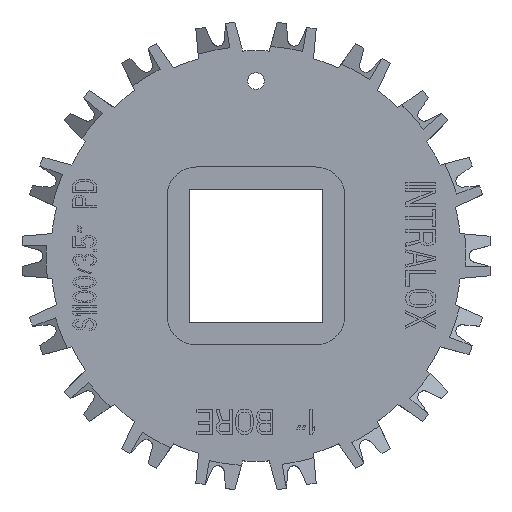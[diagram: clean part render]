
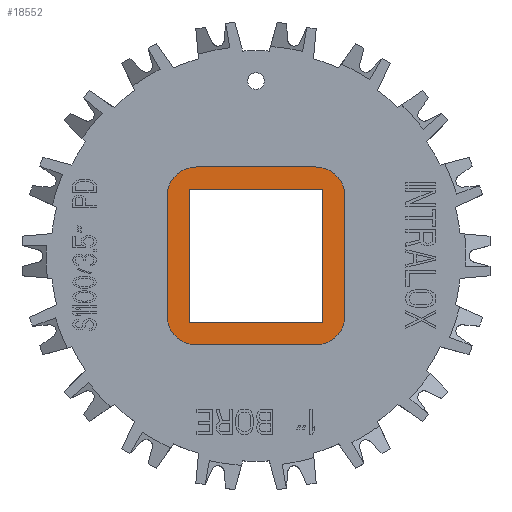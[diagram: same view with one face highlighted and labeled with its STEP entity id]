
A CAD part, top view. The second image highlights one B-rep face of the part: STEP entity #18552.
In plain terms, the highlighted planar face has unit normal (0, 0, 1).
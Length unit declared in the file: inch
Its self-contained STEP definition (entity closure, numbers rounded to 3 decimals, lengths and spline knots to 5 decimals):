
#5543=CARTESIAN_POINT('',(0.4475,0.4475,0.367));
#5544=DIRECTION('',(0.,0.,1.));
#5545=DIRECTION('',(1.,0.,0.));
#5546=AXIS2_PLACEMENT_3D('',#5543,#5544,#5545);
#5548=DIRECTION('',(0.,-1.,0.));
#5549=VECTOR('',#5548,0.895);
#5550=CARTESIAN_POINT('',(0.6675,0.4475,0.367));
#5551=LINE('',#5550,#5549);
#5552=CARTESIAN_POINT('',(0.4475,-0.4475,0.367));
#5553=DIRECTION('',(0.,0.,1.));
#5554=DIRECTION('',(0.,-1.,0.));
#5555=AXIS2_PLACEMENT_3D('',#5552,#5553,#5554);
#5557=DIRECTION('',(-1.,0.,0.));
#5558=VECTOR('',#5557,0.895);
#5559=CARTESIAN_POINT('',(0.4475,-0.6675,0.367));
#5560=LINE('',#5559,#5558);
#5561=CARTESIAN_POINT('',(-0.4475,-0.4475,0.367));
#5562=DIRECTION('',(0.,0.,1.));
#5563=DIRECTION('',(-1.,0.,0.));
#5564=AXIS2_PLACEMENT_3D('',#5561,#5562,#5563);
#5566=DIRECTION('',(0.,1.,0.));
#5567=VECTOR('',#5566,0.895);
#5568=CARTESIAN_POINT('',(-0.6675,-0.4475,0.367));
#5569=LINE('',#5568,#5567);
#5570=CARTESIAN_POINT('',(-0.4475,0.4475,0.367));
#5571=DIRECTION('',(0.,0.,1.));
#5572=DIRECTION('',(0.,1.,0.));
#5573=AXIS2_PLACEMENT_3D('',#5570,#5571,#5572);
#5575=DIRECTION('',(1.,0.,0.));
#5576=VECTOR('',#5575,0.895);
#5577=CARTESIAN_POINT('',(-0.4475,0.6675,0.367));
#5578=LINE('',#5577,#5576);
#5579=DIRECTION('',(0.,-1.,0.));
#5580=VECTOR('',#5579,1.);
#5581=CARTESIAN_POINT('',(-0.5,0.5,0.367));
#5582=LINE('',#5581,#5580);
#5583=DIRECTION('',(1.,0.,0.));
#5584=VECTOR('',#5583,1.);
#5585=CARTESIAN_POINT('',(-0.5,-0.5,0.367));
#5586=LINE('',#5585,#5584);
#5587=DIRECTION('',(0.,1.,0.));
#5588=VECTOR('',#5587,1.);
#5589=CARTESIAN_POINT('',(0.5,-0.5,0.367));
#5590=LINE('',#5589,#5588);
#5591=DIRECTION('',(-1.,0.,0.));
#5592=VECTOR('',#5591,1.);
#5593=CARTESIAN_POINT('',(0.5,0.5,0.367));
#5594=LINE('',#5593,#5592);
#10266=CARTESIAN_POINT('',(-0.5,0.5,0.367));
#10267=CARTESIAN_POINT('',(-0.5,-0.5,0.367));
#10268=VERTEX_POINT('',#10266);
#10269=VERTEX_POINT('',#10267);
#10270=CARTESIAN_POINT('',(0.5,-0.5,0.367));
#10271=VERTEX_POINT('',#10270);
#10272=CARTESIAN_POINT('',(0.5,0.5,0.367));
#10273=VERTEX_POINT('',#10272);
#12794=CARTESIAN_POINT('',(0.6675,0.4475,0.367));
#12795=CARTESIAN_POINT('',(0.4475,0.6675,0.367));
#12796=VERTEX_POINT('',#12794);
#12797=VERTEX_POINT('',#12795);
#12802=CARTESIAN_POINT('',(-0.4475,0.6675,0.367));
#12803=CARTESIAN_POINT('',(-0.6675,0.4475,0.367));
#12804=VERTEX_POINT('',#12802);
#12805=VERTEX_POINT('',#12803);
#12810=CARTESIAN_POINT('',(-0.6675,-0.4475,0.367));
#12811=CARTESIAN_POINT('',(-0.4475,-0.6675,0.367));
#12812=VERTEX_POINT('',#12810);
#12813=VERTEX_POINT('',#12811);
#12818=CARTESIAN_POINT('',(0.4475,-0.6675,0.367));
#12819=CARTESIAN_POINT('',(0.6675,-0.4475,0.367));
#12820=VERTEX_POINT('',#12818);
#12821=VERTEX_POINT('',#12819);
#18521=CARTESIAN_POINT('',(0.,0.,0.367));
#18522=DIRECTION('',(0.,0.,1.));
#18523=DIRECTION('',(1.,0.,0.));
#18524=AXIS2_PLACEMENT_3D('',#18521,#18522,#18523);
#18525=PLANE('',#18524);
#18526=ORIENTED_EDGE('',*,*,#18512,.F.);
#18528=ORIENTED_EDGE('',*,*,#18527,.T.);
#18530=ORIENTED_EDGE('',*,*,#18529,.F.);
#18532=ORIENTED_EDGE('',*,*,#18531,.T.);
#18534=ORIENTED_EDGE('',*,*,#18533,.F.);
#18536=ORIENTED_EDGE('',*,*,#18535,.T.);
#18538=ORIENTED_EDGE('',*,*,#18537,.F.);
#18539=ORIENTED_EDGE('',*,*,#18499,.T.);
#18540=EDGE_LOOP('',(#18526,#18528,#18530,#18532,#18534,#18536,#18538,#18539));
#18541=FACE_OUTER_BOUND('',#18540,.F.);
#18543=ORIENTED_EDGE('',*,*,#18542,.T.);
#18545=ORIENTED_EDGE('',*,*,#18544,.T.);
#18547=ORIENTED_EDGE('',*,*,#18546,.T.);
#18549=ORIENTED_EDGE('',*,*,#18548,.T.);
#18550=EDGE_LOOP('',(#18543,#18545,#18547,#18549));
#18551=FACE_BOUND('',#18550,.F.);
#18552=ADVANCED_FACE('',(#18541,#18551),#18525,.T.);
#5547=CIRCLE('',#5546,0.22);
#5556=CIRCLE('',#5555,0.22);
#5565=CIRCLE('',#5564,0.22);
#5574=CIRCLE('',#5573,0.22);
#18499=EDGE_CURVE('',#12804,#12797,#5578,.T.);
#18512=EDGE_CURVE('',#12796,#12797,#5547,.T.);
#18527=EDGE_CURVE('',#12796,#12821,#5551,.T.);
#18529=EDGE_CURVE('',#12820,#12821,#5556,.T.);
#18531=EDGE_CURVE('',#12820,#12813,#5560,.T.);
#18533=EDGE_CURVE('',#12812,#12813,#5565,.T.);
#18535=EDGE_CURVE('',#12812,#12805,#5569,.T.);
#18537=EDGE_CURVE('',#12804,#12805,#5574,.T.);
#18542=EDGE_CURVE('',#10268,#10269,#5582,.T.);
#18544=EDGE_CURVE('',#10269,#10271,#5586,.T.);
#18546=EDGE_CURVE('',#10271,#10273,#5590,.T.);
#18548=EDGE_CURVE('',#10273,#10268,#5594,.T.);
